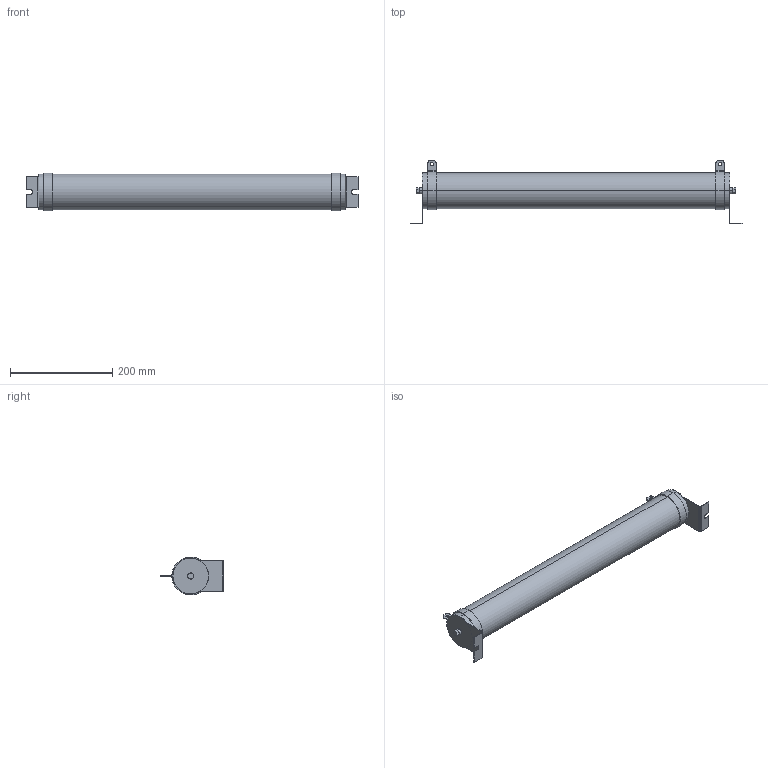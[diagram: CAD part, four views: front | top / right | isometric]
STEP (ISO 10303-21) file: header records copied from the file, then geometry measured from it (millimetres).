
FILE_DESCRIPTION (( 'STEP AP203' ), '1' );
FILE_NAME ('IRT-50-3000.STEP', '2022-11-16T11:54:52', ( '' ), ( '' ), 'SwSTEP 2.0', 'SolidWorks 2018', '' );
FILE_SCHEMA (( 'CONFIG_CONTROL_DESIGN' ));
Length unit declared in the file: millimetre
Products named in the file (1): IRT-50-3000
Bounding box: 650 x 125 x 74 mm (x, y, z)
Volume: 2341654.5 mm3; surface area: 158676 mm2
Topology: 1 solids, 1 shells, 106 faces, 258 edges, 164 vertices
Faces by surface type: plane 60, cylinder 46
Entity records: 3199 total; most frequent: DIRECTION 576, CARTESIAN_POINT 529, ORIENTED_EDGE 516, EDGE_CURVE 258, AXIS2_PLACEMENT_3D 211, VERTEX_POINT 164, VECTOR 154, LINE 154
